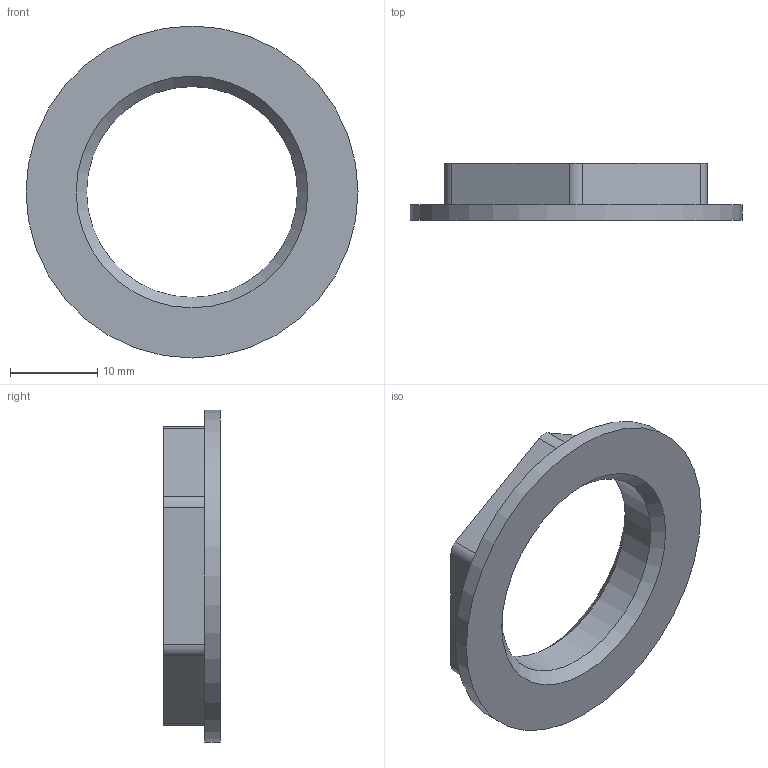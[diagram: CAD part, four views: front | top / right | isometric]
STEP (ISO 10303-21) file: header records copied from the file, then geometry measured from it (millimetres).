
FILE_DESCRIPTION(('STEP AP203'), '1');
FILE_NAME('覆.758414.002 - VTr.655.N.0005 扻艜謾骫罻', '2024-07-12T10:02:59', ('Boss'), (''), 'C3D Converter', 'C3D Toolkit', '');
FILE_SCHEMA(('CONFIG_CONTROL_DESIGN'));
Length unit declared in the file: millimetre
Products named in the file (1): ВР.758414.002
Bounding box: 38 x 6.5 x 38 mm (x, y, z)
Volume: 2619.1 mm3; surface area: 2443 mm2
Topology: 1 solids, 1 shells, 19 faces, 46 edges, 30 vertices
Faces by surface type: plane 9, cylinder 8, cone 2
Full cylindrical faces by diameter (mm): 24.118 x1, 38 x1
Entity records: 577 total; most frequent: DIRECTION 100, CARTESIAN_POINT 92, ORIENTED_EDGE 84, EDGE_CURVE 42, AXIS2_PLACEMENT_3D 38, VERTEX_POINT 30, EDGE_LOOP 26, LINE 24
